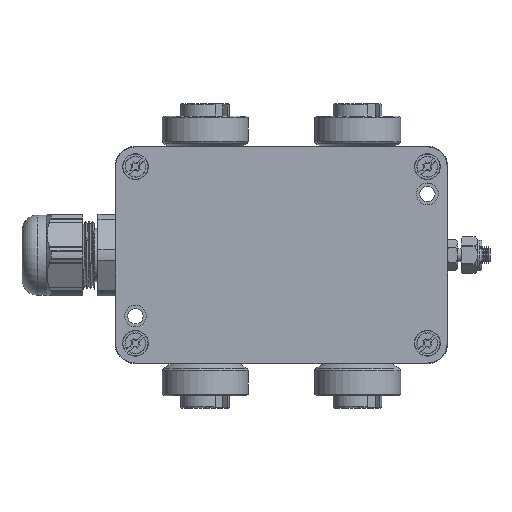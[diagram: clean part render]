
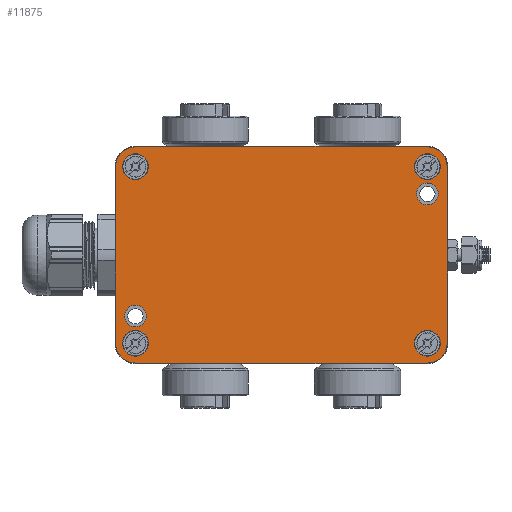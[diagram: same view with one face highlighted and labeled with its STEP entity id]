
A CAD part, top view. The second image highlights one B-rep face of the part: STEP entity #11875.
In plain terms, the highlighted planar face has unit normal (0, 0, 1).
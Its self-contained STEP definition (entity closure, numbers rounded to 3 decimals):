
#403 = EDGE_CURVE ( 'NONE', #7006, #7006, #6281, .T. ) ;
#582 = EDGE_CURVE ( 'NONE', #12868, #12868, #20036, .T. ) ;
#731 = CIRCLE ( 'NONE', #14789, 3.8 ) ;
#764 = EDGE_LOOP ( 'NONE', ( #13719 ) ) ;
#1142 = FACE_BOUND ( 'NONE', #10180, .T. ) ;
#1353 = CARTESIAN_POINT ( 'NONE',  ( 31.469, -31.56, 19.256 ) ) ;
#1704 = VECTOR ( 'NONE', #8514, 1000. ) ;
#1823 = ORIENTED_EDGE ( 'NONE', *, *, #5444, .F. ) ;
#1886 = VERTEX_POINT ( 'NONE', #15237 ) ;
#1924 = EDGE_LOOP ( 'NONE', ( #11580 ) ) ;
#2016 = VERTEX_POINT ( 'NONE', #16482 ) ;
#2030 = CARTESIAN_POINT ( 'NONE',  ( -51.331, -17.726, 19.256 ) ) ;
#2126 = VERTEX_POINT ( 'NONE', #1353 ) ;
#2290 = DIRECTION ( 'NONE',  ( 0., 0., -1. ) ) ;
#2338 = AXIS2_PLACEMENT_3D ( 'NONE', #10403, #5614, #8711 ) ;
#2340 = DIRECTION ( 'NONE',  ( 1., 0., 0. ) ) ;
#2640 = ORIENTED_EDGE ( 'NONE', *, *, #403, .T. ) ;
#2808 = EDGE_LOOP ( 'NONE', ( #2640 ) ) ;
#3060 = DIRECTION ( 'NONE',  ( 1., 0., 0. ) ) ;
#3114 = EDGE_CURVE ( 'NONE', #17973, #2016, #14037, .T. ) ;
#3325 = DIRECTION ( 'NONE',  ( 1., 0., 0. ) ) ;
#3559 = CARTESIAN_POINT ( 'NONE',  ( -60.365, 26.274, 19.256 ) ) ;
#3965 = CARTESIAN_POINT ( 'NONE',  ( -60.365, -25.726, 19.256 ) ) ;
#4222 = EDGE_CURVE ( 'NONE', #12073, #13153, #14635, .T. ) ;
#4257 = EDGE_CURVE ( 'NONE', #14932, #14932, #17374, .T. ) ;
#4280 = DIRECTION ( 'NONE',  ( 1., 0., 0. ) ) ;
#4454 = ORIENTED_EDGE ( 'NONE', *, *, #13149, .F. ) ;
#4700 = AXIS2_PLACEMENT_3D ( 'NONE', #13467, #15175, #18098 ) ;
#5128 = CARTESIAN_POINT ( 'NONE',  ( -54.531, 32.109, 19.256 ) ) ;
#5171 = DIRECTION ( 'NONE',  ( 0., 0., -1. ) ) ;
#5444 = EDGE_CURVE ( 'NONE', #20373, #14821, #7231, .T. ) ;
#5471 = DIRECTION ( 'NONE',  ( 1., 0., 0. ) ) ;
#5595 = VERTEX_POINT ( 'NONE', #19652 ) ;
#5614 = DIRECTION ( 'NONE',  ( 0., 0., -1. ) ) ;
#6079 = VERTEX_POINT ( 'NONE', #14786 ) ;
#6281 = CIRCLE ( 'NONE', #16375, 3.2 ) ;
#6876 = ORIENTED_EDGE ( 'NONE', *, *, #582, .T. ) ;
#7006 = VERTEX_POINT ( 'NONE', #2030 ) ;
#7225 = AXIS2_PLACEMENT_3D ( 'NONE', #15487, #12318, #4280 ) ;
#7231 = CIRCLE ( 'NONE', #8055, 5.834 ) ;
#7323 = CIRCLE ( 'NONE', #13136, 3.8 ) ;
#7610 = CARTESIAN_POINT ( 'NONE',  ( -60.365, 26.274, 19.256 ) ) ;
#7659 = VECTOR ( 'NONE', #15534, 1000. ) ;
#7799 = FACE_BOUND ( 'NONE', #764, .T. ) ;
#7921 = LINE ( 'NONE', #12368, #7659 ) ;
#8039 = FACE_BOUND ( 'NONE', #13198, .T. ) ;
#8055 = AXIS2_PLACEMENT_3D ( 'NONE', #14169, #12596, #3325 ) ;
#8107 = LINE ( 'NONE', #10293, #1704 ) ;
#8231 = VERTEX_POINT ( 'NONE', #13052 ) ;
#8280 = CARTESIAN_POINT ( 'NONE',  ( 31.469, 32.109, 19.256 ) ) ;
#8514 = DIRECTION ( 'NONE',  ( 0., -1., 0. ) ) ;
#8544 = EDGE_CURVE ( 'NONE', #2126, #20373, #7921, .T. ) ;
#8620 = CARTESIAN_POINT ( 'NONE',  ( -54.531, -17.726, 19.256 ) ) ;
#8711 = DIRECTION ( 'NONE',  ( 1., 0., 0. ) ) ;
#8806 = PLANE ( 'NONE',  #4700 ) ;
#8846 = DIRECTION ( 'NONE',  ( 1., 0., 0. ) ) ;
#9472 = DIRECTION ( 'NONE',  ( 0., 0., -1. ) ) ;
#9623 = ORIENTED_EDGE ( 'NONE', *, *, #17062, .F. ) ;
#9655 = CARTESIAN_POINT ( 'NONE',  ( -54.531, -31.56, 19.256 ) ) ;
#9989 = CARTESIAN_POINT ( 'NONE',  ( 35.269, 26.274, 19.256 ) ) ;
#10042 = EDGE_CURVE ( 'NONE', #6079, #6079, #731, .T. ) ;
#10180 = EDGE_LOOP ( 'NONE', ( #13724 ) ) ;
#10293 = CARTESIAN_POINT ( 'NONE',  ( 37.304, -25.726, 19.256 ) ) ;
#10318 = EDGE_CURVE ( 'NONE', #2016, #8231, #8107, .T. ) ;
#10403 = CARTESIAN_POINT ( 'NONE',  ( -54.531, 26.274, 19.256 ) ) ;
#10545 = ORIENTED_EDGE ( 'NONE', *, *, #10318, .F. ) ;
#10642 = DIRECTION ( 'NONE',  ( 1., 0., 0. ) ) ;
#10877 = AXIS2_PLACEMENT_3D ( 'NONE', #12121, #11991, #8846 ) ;
#10975 = ORIENTED_EDGE ( 'NONE', *, *, #8544, .F. ) ;
#11030 = EDGE_LOOP ( 'NONE', ( #9623, #1823, #10975, #11201, #10545, #18496, #4454, #13181 ) ) ;
#11085 = LINE ( 'NONE', #7610, #15783 ) ;
#11201 = ORIENTED_EDGE ( 'NONE', *, *, #12864, .F. ) ;
#11580 = ORIENTED_EDGE ( 'NONE', *, *, #13398, .T. ) ;
#11603 = DIRECTION ( 'NONE',  ( 1., 0., 0. ) ) ;
#11875 = ADVANCED_FACE ( 'NONE', ( #12189, #7799, #1142, #8039, #16382, #16152, #15894 ), #8806, .F. ) ;
#11991 = DIRECTION ( 'NONE',  ( 0., 0., -1. ) ) ;
#12073 = VERTEX_POINT ( 'NONE', #3559 ) ;
#12121 = CARTESIAN_POINT ( 'NONE',  ( 31.469, 26.274, 19.256 ) ) ;
#12189 = FACE_BOUND ( 'NONE', #1924, .T. ) ;
#12318 = DIRECTION ( 'NONE',  ( 0., 0., -1. ) ) ;
#12368 = CARTESIAN_POINT ( 'NONE',  ( -54.531, -31.56, 19.256 ) ) ;
#12596 = DIRECTION ( 'NONE',  ( 0., 0., -1. ) ) ;
#12864 = EDGE_CURVE ( 'NONE', #8231, #2126, #16930, .T. ) ;
#12868 = VERTEX_POINT ( 'NONE', #12940 ) ;
#12940 = CARTESIAN_POINT ( 'NONE',  ( 34.669, 18.274, 19.256 ) ) ;
#13052 = CARTESIAN_POINT ( 'NONE',  ( 37.304, -25.726, 19.256 ) ) ;
#13113 = CARTESIAN_POINT ( 'NONE',  ( -54.531, -25.726, 19.256 ) ) ;
#13136 = AXIS2_PLACEMENT_3D ( 'NONE', #14854, #2290, #5471 ) ;
#13149 = EDGE_CURVE ( 'NONE', #13153, #17973, #13693, .T. ) ;
#13153 = VERTEX_POINT ( 'NONE', #5128 ) ;
#13181 = ORIENTED_EDGE ( 'NONE', *, *, #4222, .F. ) ;
#13198 = EDGE_LOOP ( 'NONE', ( #15804 ) ) ;
#13259 = CARTESIAN_POINT ( 'NONE',  ( 31.469, 32.109, 19.256 ) ) ;
#13398 = EDGE_CURVE ( 'NONE', #5595, #5595, #7323, .T. ) ;
#13467 = CARTESIAN_POINT ( 'NONE',  ( -11.531, 0.274, 19.256 ) ) ;
#13693 = LINE ( 'NONE', #8280, #18620 ) ;
#13719 = ORIENTED_EDGE ( 'NONE', *, *, #10042, .T. ) ;
#13724 = ORIENTED_EDGE ( 'NONE', *, *, #4257, .T. ) ;
#14037 = CIRCLE ( 'NONE', #10877, 5.834 ) ;
#14169 = CARTESIAN_POINT ( 'NONE',  ( -54.531, -25.726, 19.256 ) ) ;
#14277 = DIRECTION ( 'NONE',  ( 1., 0., 0. ) ) ;
#14635 = CIRCLE ( 'NONE', #2338, 5.834 ) ;
#14641 = DIRECTION ( 'NONE',  ( 1., 0., 0. ) ) ;
#14786 = CARTESIAN_POINT ( 'NONE',  ( -50.731, 26.274, 19.256 ) ) ;
#14789 = AXIS2_PLACEMENT_3D ( 'NONE', #19034, #9472, #14277 ) ;
#14821 = VERTEX_POINT ( 'NONE', #3965 ) ;
#14854 = CARTESIAN_POINT ( 'NONE',  ( 31.469, -25.726, 19.256 ) ) ;
#14932 = VERTEX_POINT ( 'NONE', #9989 ) ;
#14987 = DIRECTION ( 'NONE',  ( 0., 0., -1. ) ) ;
#15175 = DIRECTION ( 'NONE',  ( 0., 0., -1. ) ) ;
#15237 = CARTESIAN_POINT ( 'NONE',  ( -50.731, -25.726, 19.256 ) ) ;
#15319 = CARTESIAN_POINT ( 'NONE',  ( 31.469, 18.274, 19.256 ) ) ;
#15487 = CARTESIAN_POINT ( 'NONE',  ( 31.469, 26.274, 19.256 ) ) ;
#15534 = DIRECTION ( 'NONE',  ( -1., 0., 0. ) ) ;
#15783 = VECTOR ( 'NONE', #18401, 1000. ) ;
#15804 = ORIENTED_EDGE ( 'NONE', *, *, #15848, .T. ) ;
#15848 = EDGE_CURVE ( 'NONE', #1886, #1886, #17063, .T. ) ;
#15894 = FACE_OUTER_BOUND ( 'NONE', #11030, .T. ) ;
#16152 = FACE_BOUND ( 'NONE', #19868, .T. ) ;
#16375 = AXIS2_PLACEMENT_3D ( 'NONE', #8620, #14987, #2340 ) ;
#16382 = FACE_BOUND ( 'NONE', #2808, .T. ) ;
#16482 = CARTESIAN_POINT ( 'NONE',  ( 37.304, 26.274, 19.256 ) ) ;
#16626 = AXIS2_PLACEMENT_3D ( 'NONE', #13113, #5171, #11603 ) ;
#16930 = CIRCLE ( 'NONE', #20384, 5.834 ) ;
#17023 = DIRECTION ( 'NONE',  ( 0., 0., -1. ) ) ;
#17062 = EDGE_CURVE ( 'NONE', #14821, #12073, #11085, .T. ) ;
#17063 = CIRCLE ( 'NONE', #16626, 3.8 ) ;
#17374 = CIRCLE ( 'NONE', #7225, 3.8 ) ;
#17973 = VERTEX_POINT ( 'NONE', #13259 ) ;
#18098 = DIRECTION ( 'NONE',  ( 1., 0., 0. ) ) ;
#18401 = DIRECTION ( 'NONE',  ( 0., 1., 0. ) ) ;
#18496 = ORIENTED_EDGE ( 'NONE', *, *, #3114, .F. ) ;
#18502 = AXIS2_PLACEMENT_3D ( 'NONE', #15319, #18507, #10642 ) ;
#18507 = DIRECTION ( 'NONE',  ( 0., 0., -1. ) ) ;
#18609 = CARTESIAN_POINT ( 'NONE',  ( 31.469, -25.726, 19.256 ) ) ;
#18620 = VECTOR ( 'NONE', #14641, 1000. ) ;
#19034 = CARTESIAN_POINT ( 'NONE',  ( -54.531, 26.274, 19.256 ) ) ;
#19652 = CARTESIAN_POINT ( 'NONE',  ( 35.269, -25.726, 19.256 ) ) ;
#19868 = EDGE_LOOP ( 'NONE', ( #6876 ) ) ;
#20036 = CIRCLE ( 'NONE', #18502, 3.2 ) ;
#20373 = VERTEX_POINT ( 'NONE', #9655 ) ;
#20384 = AXIS2_PLACEMENT_3D ( 'NONE', #18609, #17023, #3060 ) ;
